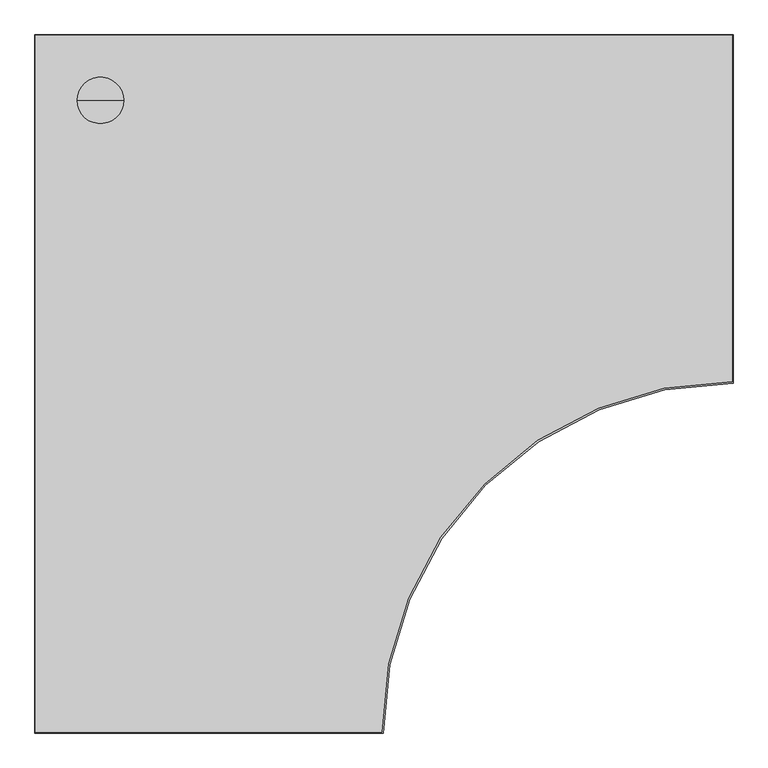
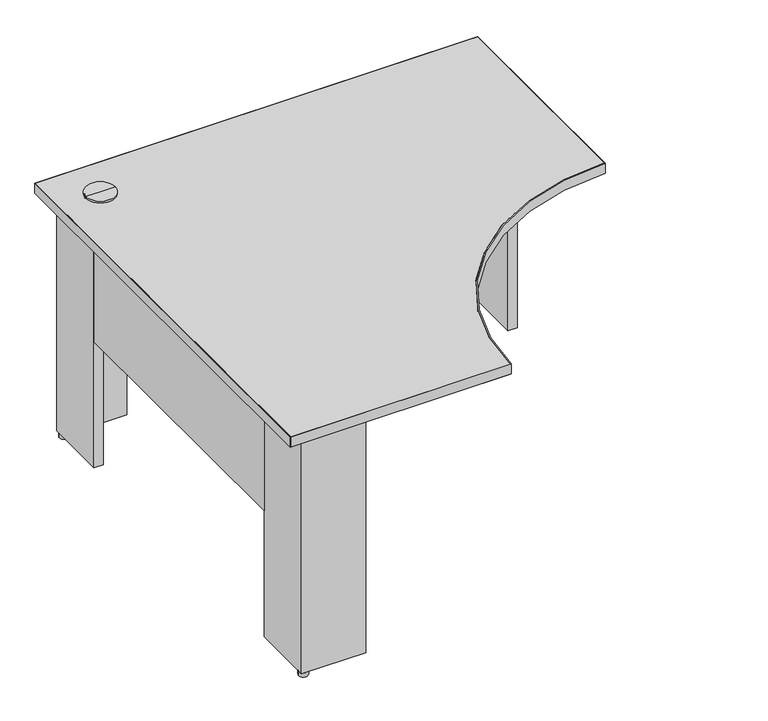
"""IFC4 building model written with IfcOpenShell, lengths in millimetres: furniture geometry, Steelcase - Kick Freestanding - Desk - Curve Corner - Partial Height Modesty Panel : 24D x 48W - Two Clear Access Support - LPL."""

from ifc_helpers import new_model, si_unit, point, frame, frame_2d, origin, origin_with_axes, place, context, project, spatial, polyline, circle_curve, trimmed, segment, composite_curve, outline, extrude, source, transform, mapped, element, save
from ifc_brep_helpers import plane_surface, cylinder_surface, advanced_brep


def furniture_6cfa4efc(model_context):
    return source(origin(), model_context, "Body", "SolidModel", [
        extrude(outline(polyline([(1026.4393822, -63.5), (1026.4393822, -38.1), (1204.2393579, -38.1), (1204.2393579, -215.8999939), (1178.3313463, -215.8999939), (1178.3313463, -63.5), (1026.4393822, -63.5)])), frame((0.0, 0.0, 12.446), z_axis=(0.0, 0.0, 1.0), x_axis=(1.0, 0.0, 0.0)), (0.0, 0.0, 1.0), 682.498),
        extrude(outline(polyline([(215.8999939, -63.5), (63.5, -63.5), (63.5, -215.8999939), (38.1, -215.8999939), (38.1, -38.1), (215.8999939, -38.1), (215.8999939, -63.5)])), frame((0.0, 0.0, 12.446), z_axis=(0.0, 0.0, 1.0), x_axis=(1.0, 0.0, 0.0)), (0.0, 0.0, 1.0), 682.498),
        advanced_brep(
        [(114.3, -114.3, 728.98), (154.94, -114.3, 728.98), (73.66, -114.3, 728.98), (76.1699693, -114.3, 694.944), (152.4300307, -114.3, 694.944), (114.3, -114.3, 694.944), (76.1699693, -114.3, 723.9), (152.4300307, -114.3, 723.9), (73.66, -114.3, 723.9), (154.94, -114.3, 723.9)],
        [
            (0, 1),
            (1, 2, circle_curve(frame((114.3, -114.3, 728.98), z_axis=(0.0, 0.0, 1.0), x_axis=(1.0, 0.0, 0.0)), 40.64)),
            (2, 0),
            (2, 1, circle_curve(frame((114.3, -114.3, 728.98), z_axis=(0.0, 0.0, 1.0), x_axis=(1.0, 0.0, 0.0)), 40.64)),
            (3, 4, circle_curve(frame((114.3, -114.3, 694.944), z_axis=(0.0, 0.0, -1.0), x_axis=(1.0, 0.0, 0.0)), 38.1300307)),
            (4, 5),
            (5, 3),
            (4, 3, circle_curve(frame((114.3, -114.3, 694.944), z_axis=(0.0, 0.0, -1.0), x_axis=(1.0, 0.0, 0.0)), 38.1300307)),
            (6, 7, circle_curve(frame((114.3, -114.3, 723.9), z_axis=(0.0, 0.0, -1.0), x_axis=(1.0, 0.0, 0.0)), 38.1300307)),
            (7, 4),
            (3, 6),
            (7, 6, circle_curve(frame((114.3, -114.3, 723.9), z_axis=(0.0, 0.0, -1.0), x_axis=(1.0, 0.0, 0.0)), 38.1300307)),
            (8, 9, circle_curve(frame((114.3, -114.3, 723.9), z_axis=(0.0, 0.0, -1.0), x_axis=(1.0, 0.0, 0.0)), 40.64)),
            (9, 7),
            (6, 8),
            (9, 8, circle_curve(frame((114.3, -114.3, 723.9), z_axis=(0.0, 0.0, -1.0), x_axis=(1.0, 0.0, 0.0)), 40.64)),
            (1, 9),
            (8, 2),
        ],
        [
            plane_surface(frame((114.3, -114.3, 728.98), z_axis=(0.0, 0.0, 1.0), x_axis=(1.0, 0.0, 0.0))),
            plane_surface(frame((114.3, -114.3, 694.944), z_axis=(0.0, 0.0, -1.0), x_axis=(1.0, 0.0, 0.0))),
            cylinder_surface(frame((114.3, -114.3, 728.98), z_axis=(0.0, 0.0, 1.0), x_axis=(1.0, 0.0, 0.0)), 38.1300307),
            plane_surface(frame((114.3, -114.3, 723.9), z_axis=(0.0, 0.0, -1.0), x_axis=(1.0, 0.0, 0.0))),
            cylinder_surface(frame((114.3, -114.3, 728.98), z_axis=(0.0, 0.0, 1.0), x_axis=(1.0, 0.0, 0.0)), 40.64),
        ],
        [
            (0, [[1, 2, 3]]),
            (0, [[-3, 4, -1]]),
            (1, [[5, 6, 7]]),
            (1, [[8, -7, -6]]),
            (2, [[9, 10, -5, 11]]),
            (2, [[12, -11, -8, -10]]),
            (3, [[13, 14, -9, 15]]),
            (3, [[16, -15, -12, -14]]),
            (4, [[-2, 17, -13, 18]]),
            (4, [[-4, -18, -16, -17]]),
        ],
    ),
        extrude(outline(composite_curve([segment(trimmed(circle_curve(frame_2d((50.8, -50.8)), 12.7), [point((38.1, -50.8))], [point((63.5, -50.8))], False, "CARTESIAN"), True, "CONTINUOUS"), segment(trimmed(circle_curve(frame_2d((50.8, -50.8)), 12.7), [point((63.5, -50.8))], [point((38.1, -50.8))], False, "CARTESIAN"), True, "CONTINUOUS")], self_intersect=False)), origin_with_axes(), (0.0, 0.0, 1.0), 12.446),
        extrude(outline(composite_curve([segment(trimmed(circle_curve(frame_2d((50.8, -1192.5300073)), 12.7484998), [point((38.0515002, -1192.5300073))], [point((63.5484998, -1192.5300073))], False, "CARTESIAN"), True, "CONTINUOUS"), segment(trimmed(circle_curve(frame_2d((50.8, -1192.5300073)), 12.7484998), [point((63.5484998, -1192.5300073))], [point((38.0515002, -1192.5300073))], False, "CARTESIAN"), True, "CONTINUOUS")], self_intersect=False)), origin_with_axes(), (0.0, 0.0, 1.0), 12.446),
        extrude(outline(composite_curve([segment(trimmed(circle_curve(frame_2d((1191.2853521, -50.8)), 12.7), [point((1178.5853521, -50.8))], [point((1203.9853521, -50.8))], False, "CARTESIAN"), True, "CONTINUOUS"), segment(trimmed(circle_curve(frame_2d((1191.2853521, -50.8)), 12.7), [point((1203.9853521, -50.8))], [point((1178.5853521, -50.8))], False, "CARTESIAN"), True, "CONTINUOUS")], self_intersect=False)), origin_with_axes(), (0.0, 0.0, 1.0), 12.446),
        extrude(outline(polyline([(63.5, -215.8999939), (63.5, -1027.4300194), (38.1, -1027.4300194), (38.1, -215.8999939), (63.5, -215.8999939)])), frame((0.0, 0.0, 379.476), z_axis=(0.0, 0.0, 1.0), x_axis=(1.0, 0.0, 0.0)), (0.0, 0.0, 1.0), 315.468),
        extrude(outline(polyline([(1026.4393822, -38.1), (1026.4393822, -63.5), (215.8999939, -63.5), (215.8999939, -38.1), (1026.4393822, -38.1)])), frame((0.0, 0.0, 379.476), z_axis=(0.0, 0.0, 1.0), x_axis=(1.0, 0.0, 0.0)), (0.0, 0.0, 1.0), 315.468),
        extrude(outline(polyline([(215.8999939, -1179.8300194), (215.8999939, -1205.2299952), (38.1, -1205.2299952), (38.1, -1027.4300194), (63.5, -1027.4300194), (63.5, -1179.8300194), (215.8999939, -1179.8300194)])), frame((0.0, 0.0, 12.446), z_axis=(0.0, 0.0, 1.0), x_axis=(1.0, 0.0, 0.0)), (0.0, 0.0, 1.0), 682.498),
        extrude(outline(composite_curve([segment(polyline([(0.9906, -1218.2093628), (0.9906, -0.9906), (1218.2093628, -0.9906), (1218.2093628, -605.3354109)]), True, "CONTINUOUS"), segment(trimmed(circle_curve(frame_2d((1216.9393458, -1216.9393458)), 611.6052536), [point((1218.2093628, -605.3354109))], [point((605.3354109, -1218.2093628))], True, "CARTESIAN"), True, "CONTINUOUS"), segment(polyline([(605.3354109, -1218.2093628), (0.9906, -1218.2093628)]), True, "CONTINUOUS")], self_intersect=False)), frame((0.0, 0.0, 694.944), z_axis=(0.0, 0.0, 1.0), x_axis=(1.0, 0.0, 0.0)), (0.0, 0.0, 1.0), 28.956),
        extrude(outline(composite_curve([segment(polyline([(1219.2, 0.0), (1219.2, -608.332629)]), True, "CONTINUOUS"), segment(trimmed(circle_curve(frame_2d((1217.929983, -1217.929983)), 609.598677), [point((1219.2, -608.332629))], [point((608.332629, -1219.2))], True, "CARTESIAN"), True, "CONTINUOUS"), segment(polyline([(608.332629, -1219.2), (0.0, -1219.2), (0.0, 0.0), (1219.2, 0.0)]), True, "CONTINUOUS")], self_intersect=False), holes=[composite_curve([segment(polyline([(1218.2093628, -0.9906), (0.9906, -0.9906), (0.9906, -1218.2093628), (605.3354109, -1218.2093628)]), True, "CONTINUOUS"), segment(trimmed(circle_curve(frame_2d((1216.9393458, -1216.9393458)), 611.6052536), [point((605.3354109, -1218.2093628))], [point((1218.2093628, -605.3354109))], False, "CARTESIAN"), True, "CONTINUOUS"), segment(polyline([(1218.2093628, -605.3354109), (1218.2093628, -0.9906)]), True, "CONTINUOUS")], self_intersect=False)]), frame((0.0, 0.0, 694.944), z_axis=(0.0, 0.0, 1.0), x_axis=(1.0, 0.0, 0.0)), (0.0, 0.0, 1.0), 28.956),
    ])


if __name__ == "__main__":
    model = new_model("IFC4")
    model_context = context("Model", 3, world=origin())
    ifc_project = project(units=[si_unit("LENGTHUNIT", "METRE", prefix="MILLI")], contexts=[model_context])
    site = spatial("IfcSite", under=ifc_project)
    building = spatial("IfcBuilding", under=site)
    placement = place(None, origin())
    furniture_shape = furniture_6cfa4efc(model_context)
    element("IfcFurniture", 1, ObjectType="Steelcase - Kick Freestanding - Desk - Curve Corner - Partial Height Modesty Panel : 24D x 48W - Two Clear Access Support - LPL", at=placement, inside=building, context=model_context, shape_type="MappedRepresentation", body=[
        mapped(furniture_shape, transform((0.0, 0.0, 0.0), x_axis=(1.0, 0.0, 0.0), y_axis=(0.0, 1.0, 0.0), z_axis=(0.0, 0.0, 1.0))),
    ])
    save(model, "model.ifc")
